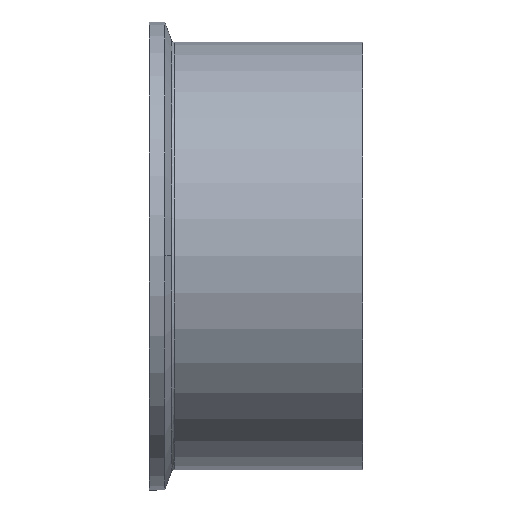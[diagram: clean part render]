
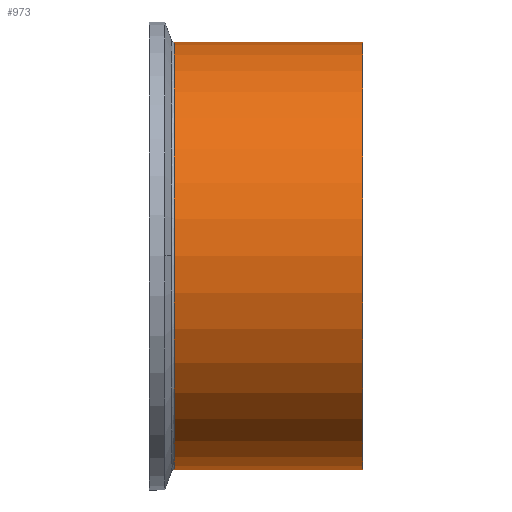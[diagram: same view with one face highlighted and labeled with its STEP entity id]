
A CAD part, top view. The second image highlights one B-rep face of the part: STEP entity #973.
In plain terms, the highlighted cylindrical face has radius 76.2 mm (diameter 152.4 mm), a partial arc.
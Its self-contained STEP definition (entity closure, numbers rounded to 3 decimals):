
#25 = EDGE_CURVE ( 'NONE', #42, #1004, #798, .T. ) ;
#40 = CIRCLE ( 'NONE', #1398, 76.2 ) ;
#42 = VERTEX_POINT ( 'NONE', #1048 ) ;
#75 = CARTESIAN_POINT ( 'NONE',  ( 0., -76.2, 0. ) ) ;
#83 = VECTOR ( 'NONE', #1186, 1000. ) ;
#124 = ORIENTED_EDGE ( 'NONE', *, *, #1749, .F. ) ;
#187 = DIRECTION ( 'NONE',  ( 1., 0., 0. ) ) ;
#201 = DIRECTION ( 'NONE',  ( 0., 1., 0. ) ) ;
#215 = AXIS2_PLACEMENT_3D ( 'NONE', #717, #577, #476 ) ;
#320 = EDGE_CURVE ( 'NONE', #837, #1004, #539, .T. ) ;
#466 = LINE ( 'NONE', #782, #1739 ) ;
#470 = EDGE_CURVE ( 'NONE', #1424, #837, #40, .T. ) ;
#476 = DIRECTION ( 'NONE',  ( 0., 1., 0. ) ) ;
#531 = CYLINDRICAL_SURFACE ( 'NONE', #954, 76.2 ) ;
#539 = LINE ( 'NONE', #1208, #83 ) ;
#554 = FACE_OUTER_BOUND ( 'NONE', #1080, .T. ) ;
#565 = ORIENTED_EDGE ( 'NONE', *, *, #470, .T. ) ;
#577 = DIRECTION ( 'NONE',  ( 1., 0., 0. ) ) ;
#615 = ORIENTED_EDGE ( 'NONE', *, *, #320, .T. ) ;
#684 = DIRECTION ( 'NONE',  ( 1., 0., 0. ) ) ;
#717 = CARTESIAN_POINT ( 'NONE',  ( 0., 0., 0. ) ) ;
#758 = ORIENTED_EDGE ( 'NONE', *, *, #25, .F. ) ;
#782 = CARTESIAN_POINT ( 'NONE',  ( 45.786, 76.2, 0. ) ) ;
#798 = CIRCLE ( 'NONE', #215, 76.2 ) ;
#837 = VERTEX_POINT ( 'NONE', #1274 ) ;
#954 = AXIS2_PLACEMENT_3D ( 'NONE', #1284, #684, #201 ) ;
#973 = ADVANCED_FACE ( 'NONE', ( #554 ), #531, .T. ) ;
#1004 = VERTEX_POINT ( 'NONE', #75 ) ;
#1048 = CARTESIAN_POINT ( 'NONE',  ( 0., 76.2, 0. ) ) ;
#1080 = EDGE_LOOP ( 'NONE', ( #565, #615, #758, #124 ) ) ;
#1186 = DIRECTION ( 'NONE',  ( 1., 0., 0. ) ) ;
#1208 = CARTESIAN_POINT ( 'NONE',  ( 45.786, -76.2, 0. ) ) ;
#1274 = CARTESIAN_POINT ( 'NONE',  ( -67.337, -76.2, 0. ) ) ;
#1284 = CARTESIAN_POINT ( 'NONE',  ( 45.786, 0., 0. ) ) ;
#1398 = AXIS2_PLACEMENT_3D ( 'NONE', #1583, #1485, #1476 ) ;
#1424 = VERTEX_POINT ( 'NONE', #1755 ) ;
#1476 = DIRECTION ( 'NONE',  ( 0., 1., 0. ) ) ;
#1485 = DIRECTION ( 'NONE',  ( 1., 0., 0. ) ) ;
#1583 = CARTESIAN_POINT ( 'NONE',  ( -67.337, 0., 0. ) ) ;
#1739 = VECTOR ( 'NONE', #187, 1000. ) ;
#1749 = EDGE_CURVE ( 'NONE', #1424, #42, #466, .T. ) ;
#1755 = CARTESIAN_POINT ( 'NONE',  ( -67.337, 76.2, 0. ) ) ;
